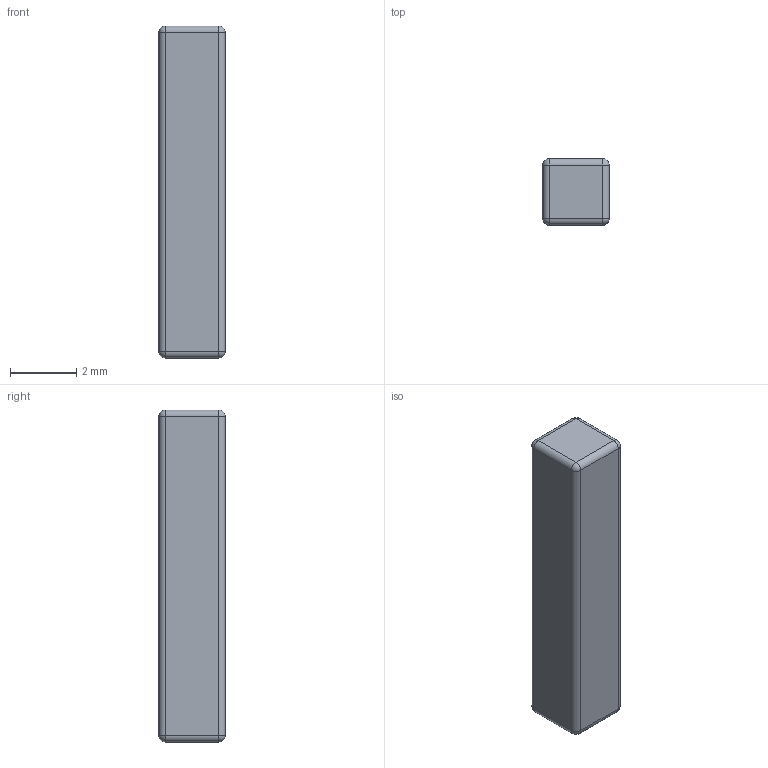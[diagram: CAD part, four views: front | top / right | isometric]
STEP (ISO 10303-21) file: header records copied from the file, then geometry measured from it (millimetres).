
FILE_DESCRIPTION (( 'STEP AP214' ), '1' );
FILE_NAME ('2x2x10_Machine_Key-am-1121.step', '2025-12-23T15:51:45', ( '' ), ( '' ), 'SwSTEP 2.0', 'SolidWorks 2026', '' );
FILE_SCHEMA (( 'AUTOMOTIVE_DESIGN' ));
Length unit declared in the file: inch
Products named in the file (1): 2x2x10_Machine_Key-am-1121
Bounding box: 2 x 2 x 10 mm (x, y, z)
Volume: 39.5 mm3; surface area: 83.1 mm2
Topology: 1 solids, 1 shells, 26 faces, 56 edges, 24 vertices
Faces by surface type: cylinder 12, sphere 8, plane 6
Entity records: 651 total; most frequent: DIRECTION 126, CARTESIAN_POINT 99, ORIENTED_EDGE 96, AXIS2_PLACEMENT_3D 51, EDGE_CURVE 48, EDGE_LOOP 26, ADVANCED_FACE 26, FACE_OUTER_BOUND 26
